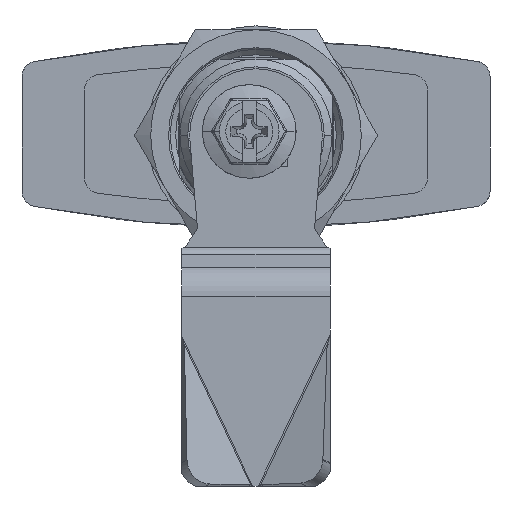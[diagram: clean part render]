
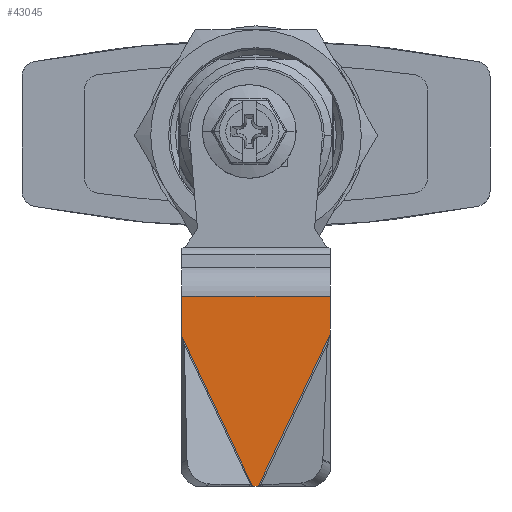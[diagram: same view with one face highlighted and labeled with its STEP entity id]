
A CAD part, front view. The second image highlights one B-rep face of the part: STEP entity #43045.
In plain terms, the highlighted planar face has unit normal (0, -1, 0).
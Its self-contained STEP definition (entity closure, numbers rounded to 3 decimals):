
#578 = DIRECTION ( 'NONE',  ( 0., 0., 1. ) ) ;
#801 = CARTESIAN_POINT ( 'NONE',  ( 45., -10., -9.5 ) ) ;
#2909 = CARTESIAN_POINT ( 'NONE',  ( 20.659, -10., -9.5 ) ) ;
#3166 = ORIENTED_EDGE ( 'NONE', *, *, #4387, .F. ) ;
#3970 = EDGE_LOOP ( 'NONE', ( #11074, #15839, #41919, #41541, #3166, #38761 ) ) ;
#4168 = DIRECTION ( 'NONE',  ( -0.904, 0., -0.427 ) ) ;
#4387 = EDGE_CURVE ( 'NONE', #24432, #5426, #14477, .T. ) ;
#4612 = DIRECTION ( 'NONE',  ( 0., 1., 0. ) ) ;
#5426 = VERTEX_POINT ( 'NONE', #34613 ) ;
#6282 = CARTESIAN_POINT ( 'NONE',  ( 25.513, -10., 9.5 ) ) ;
#7358 = CARTESIAN_POINT ( 'NONE',  ( 25.513, -10., 9.5 ) ) ;
#8316 = EDGE_CURVE ( 'NONE', #42770, #35333, #22419, .T. ) ;
#9150 = CARTESIAN_POINT ( 'NONE',  ( 32.83, -10., -9.5 ) ) ;
#10104 = LINE ( 'NONE', #26903, #15857 ) ;
#11074 = ORIENTED_EDGE ( 'NONE', *, *, #8316, .F. ) ;
#11114 = CARTESIAN_POINT ( 'NONE',  ( 20.659, -10., -9.5 ) ) ;
#11382 = EDGE_CURVE ( 'NONE', #24432, #35333, #10104, .T. ) ;
#12178 = AXIS2_PLACEMENT_3D ( 'NONE', #801, #4612, #578 ) ;
#12710 = DIRECTION ( 'NONE',  ( 0., 0., 1. ) ) ;
#13645 = VECTOR ( 'NONE', #12710, 1000. ) ;
#13898 = VECTOR ( 'NONE', #28617, 1000. ) ;
#14477 = LINE ( 'NONE', #7358, #22549 ) ;
#14596 = PLANE ( 'NONE',  #12178 ) ;
#15839 = ORIENTED_EDGE ( 'NONE', *, *, #41769, .F. ) ;
#15857 = VECTOR ( 'NONE', #40394, 1000. ) ;
#16457 = CARTESIAN_POINT ( 'NONE',  ( 25.811, -10., -9.5 ) ) ;
#17224 = LINE ( 'NONE', #30722, #41466 ) ;
#17425 = LINE ( 'NONE', #9150, #31172 ) ;
#18418 = CARTESIAN_POINT ( 'NONE',  ( 45., -10., 0. ) ) ;
#22419 = LINE ( 'NONE', #2909, #13645 ) ;
#22549 = VECTOR ( 'NONE', #31484, 1000. ) ;
#22560 = EDGE_CURVE ( 'NONE', #25070, #5426, #31919, .T. ) ;
#22844 = DIRECTION ( 'NONE',  ( -1., 0., 0. ) ) ;
#23951 = EDGE_CURVE ( 'NONE', #25070, #38509, #17224, .T. ) ;
#24432 = VERTEX_POINT ( 'NONE', #6282 ) ;
#25070 = VERTEX_POINT ( 'NONE', #31237 ) ;
#26903 = CARTESIAN_POINT ( 'NONE',  ( 32.83, -10., 9.5 ) ) ;
#27433 = CARTESIAN_POINT ( 'NONE',  ( 20.659, -10., 9.5 ) ) ;
#28082 = FACE_OUTER_BOUND ( 'NONE', #3970, .T. ) ;
#28617 = DIRECTION ( 'NONE',  ( 0., 0., 1. ) ) ;
#30722 = CARTESIAN_POINT ( 'NONE',  ( 45., -10., -0.438 ) ) ;
#31172 = VECTOR ( 'NONE', #22844, 1000. ) ;
#31237 = CARTESIAN_POINT ( 'NONE',  ( 45., -10., -0.438 ) ) ;
#31484 = DIRECTION ( 'NONE',  ( 0.904, 0., -0.427 ) ) ;
#31919 = LINE ( 'NONE', #18418, #13898 ) ;
#34613 = CARTESIAN_POINT ( 'NONE',  ( 45., -10., 0.298 ) ) ;
#35333 = VERTEX_POINT ( 'NONE', #27433 ) ;
#38509 = VERTEX_POINT ( 'NONE', #16457 ) ;
#38761 = ORIENTED_EDGE ( 'NONE', *, *, #11382, .T. ) ;
#40394 = DIRECTION ( 'NONE',  ( -1., 0., 0. ) ) ;
#41466 = VECTOR ( 'NONE', #4168, 1000. ) ;
#41541 = ORIENTED_EDGE ( 'NONE', *, *, #22560, .T. ) ;
#41769 = EDGE_CURVE ( 'NONE', #38509, #42770, #17425, .T. ) ;
#41919 = ORIENTED_EDGE ( 'NONE', *, *, #23951, .F. ) ;
#42770 = VERTEX_POINT ( 'NONE', #11114 ) ;
#43045 = ADVANCED_FACE ( 'NONE', ( #28082 ), #14596, .F. ) ;
